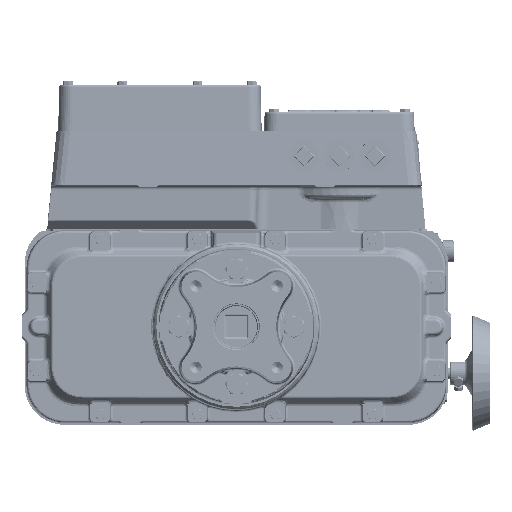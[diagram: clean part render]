
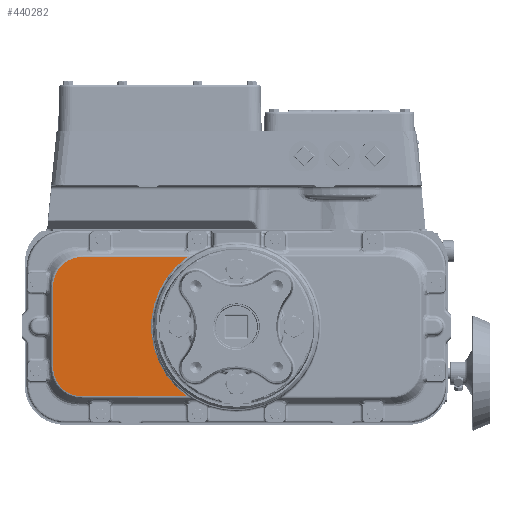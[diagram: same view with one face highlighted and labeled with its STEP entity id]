
A CAD part, front view. The second image highlights one B-rep face of the part: STEP entity #440282.
In plain terms, the highlighted planar face has unit normal (0, -1, 0).
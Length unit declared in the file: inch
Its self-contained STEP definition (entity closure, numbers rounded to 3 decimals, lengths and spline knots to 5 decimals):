
#20828 = AXIS2_PLACEMENT_3D ( 'NONE', #353609, #593871, #54008 ) ;
#21899 = DIRECTION ( 'NONE',  ( 1., 0., 0. ) ) ;
#45285 = FACE_OUTER_BOUND ( 'NONE', #624563, .T. ) ;
#54008 = DIRECTION ( 'NONE',  ( 0., 0., 1. ) ) ;
#76955 = CARTESIAN_POINT ( 'NONE',  ( -10.26009, -1.1, -2.8626 ) ) ;
#80186 = CARTESIAN_POINT ( 'NONE',  ( -10.15775, -1.1, 3.12316 ) ) ;
#80849 = CARTESIAN_POINT ( 'NONE',  ( -9.35358, -1.1, -3.80986 ) ) ;
#81678 = CARTESIAN_POINT ( 'NONE',  ( 0., -1.1, 3.94454 ) ) ;
#84059 = CARTESIAN_POINT ( 'NONE',  ( -9.54816, -1.1, 3.73275 ) ) ;
#84704 = CARTESIAN_POINT ( 'NONE',  ( -10.36954, -1.1, -2.23414 ) ) ;
#136035 = CARTESIAN_POINT ( 'NONE',  ( -10.35067, -1.1, -2.53291 ) ) ;
#136206 = EDGE_CURVE ( 'NONE', #392050, #672900, #705583, .T. ) ;
#139289 = CARTESIAN_POINT ( 'NONE',  ( -8.90181, -1.1, 3.94149 ) ) ;
#150043 = ORIENTED_EDGE ( 'NONE', *, *, #404935, .F. ) ;
#150813 = CARTESIAN_POINT ( 'NONE',  ( -10.03734, -1.1, 3.30757 ) ) ;
#164519 = CARTESIAN_POINT ( 'NONE',  ( -2.77453, -1.1, 3.94454 ) ) ;
#172120 = CIRCLE ( 'NONE', #20828, 4.8226 ) ;
#188624 = VECTOR ( 'NONE', #773837, 39.37008 ) ;
#191277 = CARTESIAN_POINT ( 'NONE',  ( -9.68228, -1.1, -3.63896 ) ) ;
#198448 = CARTESIAN_POINT ( 'NONE',  ( -10.36649, -1.1, 2.47681 ) ) ;
#199095 = CARTESIAN_POINT ( 'NONE',  ( -10.24524, -1.1, -2.90238 ) ) ;
#202984 = CARTESIAN_POINT ( 'NONE',  ( -8.90329, -1.1, -3.94147 ) ) ;
#212400 = CARTESIAN_POINT ( 'NONE',  ( -8.65914, -1.1, 3.94454 ) ) ;
#216927 = EDGE_CURVE ( 'NONE', #294633, #490227, #391671, .T. ) ;
#246839 = CARTESIAN_POINT ( 'NONE',  ( 0., -1.1, -3.94454 ) ) ;
#253624 = CARTESIAN_POINT ( 'NONE',  ( -8.65914, -1.1, -3.94454 ) ) ;
#254581 = LINE ( 'NONE', #246839, #347375 ) ;
#264153 = EDGE_CURVE ( 'NONE', #517002, #541322, #172120, .T. ) ;
#265236 = CARTESIAN_POINT ( 'NONE',  ( -9.13274, -1.1, 3.89738 ) ) ;
#269352 = CARTESIAN_POINT ( 'NONE',  ( -10.36954, -1.1, -2.23414 ) ) ;
#294633 = VERTEX_POINT ( 'NONE', #269352 ) ;
#317375 = CARTESIAN_POINT ( 'NONE',  ( -9.80803, -1.1, -3.53688 ) ) ;
#321281 = CARTESIAN_POINT ( 'NONE',  ( -8.65914, -1.1, -3.94454 ) ) ;
#325127 = CARTESIAN_POINT ( 'NONE',  ( -9.13039, -1.1, -3.89831 ) ) ;
#347375 = VECTOR ( 'NONE', #21899, 39.37008 ) ;
#353609 = CARTESIAN_POINT ( 'NONE',  ( 0., -1.1, 0. ) ) ;
#372652 = CARTESIAN_POINT ( 'NONE',  ( -10.03879, -1.1, -3.30611 ) ) ;
#376533 = CARTESIAN_POINT ( 'NONE',  ( -10.30414, -1.1, -2.7279 ) ) ;
#383650 = CARTESIAN_POINT ( 'NONE',  ( -8.65914, -1.1, 3.94454 ) ) ;
#384313 = CARTESIAN_POINT ( 'NONE',  ( -9.3922, -1.1, -3.79365 ) ) ;
#386620 = ORIENTED_EDGE ( 'NONE', *, *, #136206, .F. ) ;
#391326 = CARTESIAN_POINT ( 'NONE',  ( -9.73257, -1.1, 3.61234 ) ) ;
#391671 = B_SPLINE_CURVE_WITH_KNOTS ( 'NONE', 3,
 ( #84704, #553872, #136035, #376533, #486921, #76955, #557717, #199095, #616860, #372652, #317375, #191277, #490838, #431625, #384313, #561624, #80849, #325127, #202984, #321281 ),
 .UNSPECIFIED., .F., .F.,
 ( 4, 1, 1, 1, 2, 2, 2, 1, 1, 1, 2, 2, 4 ),
 ( 0., 0.125, 0.1875, 0.21875, 0.23437, 0.25, 0.5, 0.625, 0.6875, 0.71875, 0.73438, 0.75, 1. ),
 .UNSPECIFIED. ) ;
#392050 = VERTEX_POINT ( 'NONE', #415471 ) ;
#400152 = DIRECTION ( 'NONE',  ( 0., 0., 1. ) ) ;
#404935 = EDGE_CURVE ( 'NONE', #294633, #392050, #411468, .T. ) ;
#411468 = LINE ( 'NONE', #470645, #188624 ) ;
#415471 = CARTESIAN_POINT ( 'NONE',  ( -10.36954, -1.1, 2.23414 ) ) ;
#430139 = ORIENTED_EDGE ( 'NONE', *, *, #216927, .T. ) ;
#431625 = CARTESIAN_POINT ( 'NONE',  ( -9.43045, -1.1, -3.77686 ) ) ;
#436246 = ORIENTED_EDGE ( 'NONE', *, *, #610104, .T. ) ;
#440282 = ADVANCED_FACE ( 'NONE', ( #45285 ), #777916, .F. ) ;
#459265 = CARTESIAN_POINT ( 'NONE',  ( 0., -1.1, 0. ) ) ;
#470645 = CARTESIAN_POINT ( 'NONE',  ( -10.36954, -1.1, 0. ) ) ;
#486921 = CARTESIAN_POINT ( 'NONE',  ( -10.27429, -1.1, -2.82261 ) ) ;
#490227 = VERTEX_POINT ( 'NONE', #253624 ) ;
#490838 = CARTESIAN_POINT ( 'NONE',  ( -9.51742, -1.1, -3.73477 ) ) ;
#517002 = VERTEX_POINT ( 'NONE', #164519 ) ;
#521556 = EDGE_CURVE ( 'NONE', #672900, #517002, #688331, .T. ) ;
#532481 = ORIENTED_EDGE ( 'NONE', *, *, #264153, .F. ) ;
#541322 = VERTEX_POINT ( 'NONE', #683220 ) ;
#553872 = CARTESIAN_POINT ( 'NONE',  ( -10.36801, -1.1, -2.3562 ) ) ;
#557717 = CARTESIAN_POINT ( 'NONE',  ( -10.25031, -1.1, -2.88912 ) ) ;
#558965 = ORIENTED_EDGE ( 'NONE', *, *, #521556, .F. ) ;
#560981 = CARTESIAN_POINT ( 'NONE',  ( -10.36954, -1.1, 2.23414 ) ) ;
#561624 = CARTESIAN_POINT ( 'NONE',  ( -9.36649, -1.1, -3.80456 ) ) ;
#593871 = DIRECTION ( 'NONE',  ( 0., -1., 0. ) ) ;
#610104 = EDGE_CURVE ( 'NONE', #490227, #541322, #254581, .T. ) ;
#616860 = CARTESIAN_POINT ( 'NONE',  ( -10.1572, -1.1, -3.12457 ) ) ;
#624563 = EDGE_LOOP ( 'NONE', ( #150043, #430139, #436246, #532481, #558965, #386620 ) ) ;
#672900 = VERTEX_POINT ( 'NONE', #212400 ) ;
#679229 = CARTESIAN_POINT ( 'NONE',  ( -10.32238, -1.1, 2.70774 ) ) ;
#683220 = CARTESIAN_POINT ( 'NONE',  ( -2.77453, -1.1, -3.94454 ) ) ;
#688331 = LINE ( 'NONE', #81678, #760940 ) ;
#699503 = DIRECTION ( 'NONE',  ( 0., 1., 0. ) ) ;
#705583 = B_SPLINE_CURVE_WITH_KNOTS ( 'NONE', 3,
 ( #560981, #198448, #679229, #80186, #150813, #391326, #84059, #265236, #139289, #383650 ),
 .UNSPECIFIED., .F., .F.,
 ( 4, 2, 2, 2, 4 ),
 ( 0., 0.25, 0.5, 0.75, 1. ),
 .UNSPECIFIED. ) ;
#751200 = DIRECTION ( 'NONE',  ( 1., 0., 0. ) ) ;
#760940 = VECTOR ( 'NONE', #751200, 39.37008 ) ;
#773837 = DIRECTION ( 'NONE',  ( 0., 0., 1. ) ) ;
#775969 = AXIS2_PLACEMENT_3D ( 'NONE', #459265, #699503, #400152 ) ;
#777916 = PLANE ( 'NONE',  #775969 ) ;
